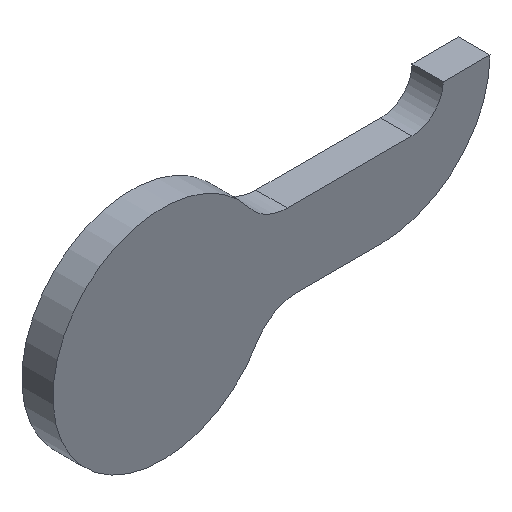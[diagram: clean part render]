
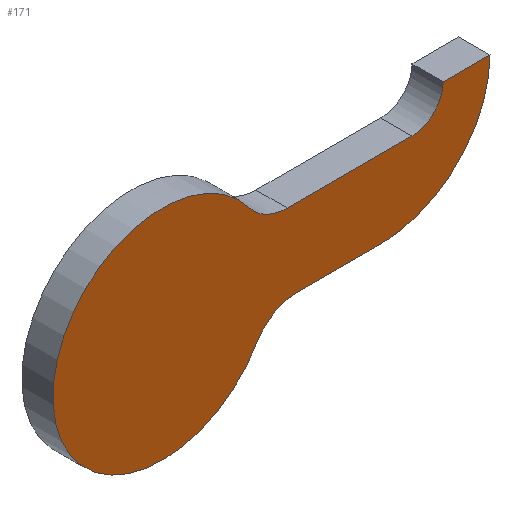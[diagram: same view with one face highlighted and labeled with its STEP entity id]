
A CAD part, isometric view. The second image highlights one B-rep face of the part: STEP entity #171.
In plain terms, the highlighted planar face has unit normal (0, -1, 0).
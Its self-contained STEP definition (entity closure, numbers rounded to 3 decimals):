
#20=FACE_OUTER_BOUND('',#30,.T.);
#30=EDGE_LOOP('',(#118,#119,#120,#121,#122,#123,#124,#125));
#40=LINE('',#283,#54);
#41=LINE('',#287,#55);
#42=LINE('',#294,#56);
#54=VECTOR('',#227,10.);
#55=VECTOR('',#230,10.);
#56=VECTOR('',#237,10.);
#68=CIRCLE('',#202,35.);
#69=CIRCLE('',#203,10.);
#70=CIRCLE('',#204,15.);
#71=CIRCLE('',#205,35.);
#72=CIRCLE('',#206,15.);
#78=VERTEX_POINT('',#279);
#79=VERTEX_POINT('',#280);
#80=VERTEX_POINT('',#282);
#81=VERTEX_POINT('',#284);
#82=VERTEX_POINT('',#286);
#83=VERTEX_POINT('',#288);
#84=VERTEX_POINT('',#290);
#85=VERTEX_POINT('',#292);
#94=EDGE_CURVE('',#78,#79,#68,.T.);
#95=EDGE_CURVE('',#79,#80,#40,.T.);
#96=EDGE_CURVE('',#80,#81,#69,.T.);
#97=EDGE_CURVE('',#81,#82,#41,.T.);
#98=EDGE_CURVE('',#82,#83,#70,.T.);
#99=EDGE_CURVE('',#83,#84,#71,.T.);
#100=EDGE_CURVE('',#84,#85,#72,.T.);
#101=EDGE_CURVE('',#85,#78,#42,.T.);
#118=ORIENTED_EDGE('',*,*,#94,.T.);
#119=ORIENTED_EDGE('',*,*,#95,.T.);
#120=ORIENTED_EDGE('',*,*,#96,.T.);
#121=ORIENTED_EDGE('',*,*,#97,.T.);
#122=ORIENTED_EDGE('',*,*,#98,.T.);
#123=ORIENTED_EDGE('',*,*,#99,.T.);
#124=ORIENTED_EDGE('',*,*,#100,.T.);
#125=ORIENTED_EDGE('',*,*,#101,.T.);
#166=PLANE('',#201);
#171=ADVANCED_FACE('',(#20),#166,.F.);
#201=AXIS2_PLACEMENT_3D('',#278,#223,#224);
#202=AXIS2_PLACEMENT_3D('',#281,#225,#226);
#203=AXIS2_PLACEMENT_3D('',#285,#228,#229);
#204=AXIS2_PLACEMENT_3D('',#289,#231,#232);
#205=AXIS2_PLACEMENT_3D('',#291,#233,#234);
#206=AXIS2_PLACEMENT_3D('',#293,#235,#236);
#223=DIRECTION('center_axis',(0.,1.,0.));
#224=DIRECTION('ref_axis',(0.,0.,1.));
#225=DIRECTION('center_axis',(0.,-1.,0.));
#226=DIRECTION('ref_axis',(1.,0.,0.));
#227=DIRECTION('',(-1.,0.,0.));
#228=DIRECTION('center_axis',(0.,1.,0.));
#229=DIRECTION('ref_axis',(-1.,0.,0.));
#230=DIRECTION('',(-1.,0.,0.));
#231=DIRECTION('center_axis',(0.,1.,0.));
#232=DIRECTION('ref_axis',(0.,0.,1.));
#233=DIRECTION('center_axis',(0.,-1.,0.));
#234=DIRECTION('ref_axis',(0.866,0.,-0.5));
#235=DIRECTION('center_axis',(0.,1.,0.));
#236=DIRECTION('ref_axis',(0.866,0.,-0.5));
#237=DIRECTION('',(1.,0.,0.));
#278=CARTESIAN_POINT('Origin',(35.,-5.,0.));
#279=CARTESIAN_POINT('',(70.,-5.,-10.));
#280=CARTESIAN_POINT('',(105.,-5.,25.));
#281=CARTESIAN_POINT('Origin',(70.,-5.,25.));
#282=CARTESIAN_POINT('',(90.,-5.,25.));
#283=CARTESIAN_POINT('',(90.,-5.,25.));
#284=CARTESIAN_POINT('',(80.,-5.,15.));
#285=CARTESIAN_POINT('Origin',(80.,-5.,25.));
#286=CARTESIAN_POINT('',(40.,-5.,15.));
#287=CARTESIAN_POINT('',(40.,-5.,15.));
#288=CARTESIAN_POINT('',(28.,-5.,21.));
#289=CARTESIAN_POINT('Origin',(40.,-5.,30.));
#290=CARTESIAN_POINT('',(30.311,-5.,-17.5));
#291=CARTESIAN_POINT('Origin',(0.,-5.,0.));
#292=CARTESIAN_POINT('',(43.301,-5.,-10.));
#293=CARTESIAN_POINT('Origin',(43.301,-5.,-25.));
#294=CARTESIAN_POINT('',(70.,-5.,-10.));
